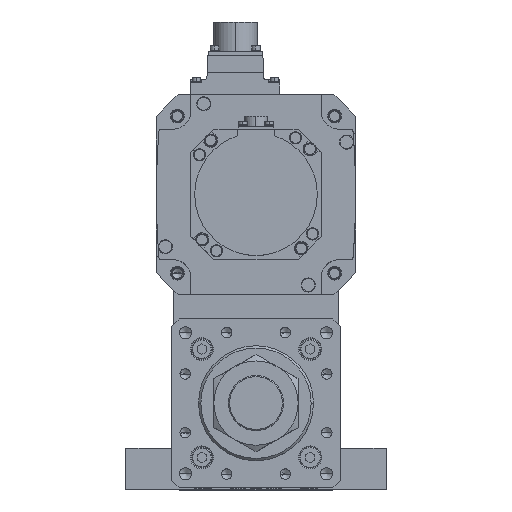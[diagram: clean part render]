
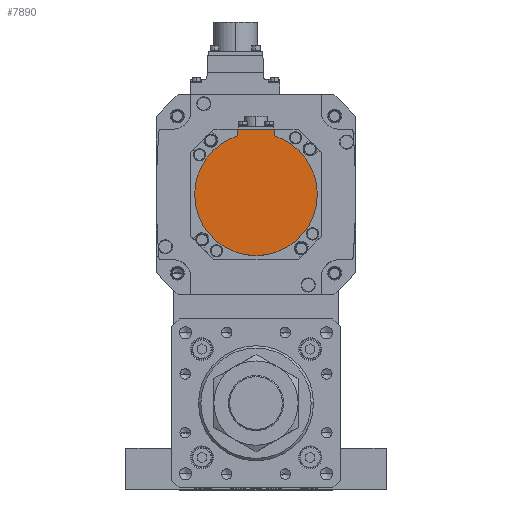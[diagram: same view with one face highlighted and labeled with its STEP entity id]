
A CAD part, top view. The second image highlights one B-rep face of the part: STEP entity #7890.
In plain terms, the highlighted planar face has unit normal (0, 0, 1) as drawn and (0, 0, -1) by its records, which use the part's own axes.
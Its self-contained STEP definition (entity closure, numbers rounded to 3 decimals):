
#437 = CARTESIAN_POINT ( 'NONE',  ( 0., 0., -132.5 ) ) ;
#480 = EDGE_CURVE ( 'NONE', #11700, #31785, #34786, .T. ) ;
#603 = ORIENTED_EDGE ( 'NONE', *, *, #10651, .T. ) ;
#1660 = AXIS2_PLACEMENT_3D ( 'NONE', #3657, #3763, #17277 ) ;
#3657 = CARTESIAN_POINT ( 'NONE',  ( 0., 0., -132.5 ) ) ;
#3763 = DIRECTION ( 'NONE',  ( 0., 0., 1. ) ) ;
#4020 = EDGE_CURVE ( 'NONE', #29515, #20996, #4608, .T. ) ;
#4137 = DIRECTION ( 'NONE',  ( 1., 0., 0. ) ) ;
#4170 = DIRECTION ( 'NONE',  ( 0., 1., 0. ) ) ;
#4608 = CIRCLE ( 'NONE', #6667, 40. ) ;
#5895 = CARTESIAN_POINT ( 'NONE',  ( -12., -42.5, -132.5 ) ) ;
#6609 = CIRCLE ( 'NONE', #18879, 40. ) ;
#6667 = AXIS2_PLACEMENT_3D ( 'NONE', #437, #25075, #8656 ) ;
#7841 = ORIENTED_EDGE ( 'NONE', *, *, #29597, .F. ) ;
#7890 = ADVANCED_FACE ( 'NONE', ( #24269 ), #15286, .F. ) ;
#8656 = DIRECTION ( 'NONE',  ( 1., 0., 0. ) ) ;
#10651 = EDGE_CURVE ( 'NONE', #30215, #20996, #29713, .T. ) ;
#11272 = DIRECTION ( 'NONE',  ( 1., 0., 0. ) ) ;
#11700 = VERTEX_POINT ( 'NONE', #21454 ) ;
#12406 = ORIENTED_EDGE ( 'NONE', *, *, #21915, .T. ) ;
#12801 = CARTESIAN_POINT ( 'NONE',  ( -12., -40.329, -132.5 ) ) ;
#15286 = PLANE ( 'NONE',  #30843 ) ;
#15409 = DIRECTION ( 'NONE',  ( 0., 1., 0. ) ) ;
#15461 = LINE ( 'NONE', #20508, #33871 ) ;
#16090 = EDGE_LOOP ( 'NONE', ( #603, #23887, #7841, #24089, #32646, #12406 ) ) ;
#16453 = CIRCLE ( 'NONE', #1660, 40. ) ;
#17277 = DIRECTION ( 'NONE',  ( 1., 0., 0. ) ) ;
#17975 = DIRECTION ( 'NONE',  ( -1., 0., 0. ) ) ;
#18879 = AXIS2_PLACEMENT_3D ( 'NONE', #25008, #27647, #11272 ) ;
#19641 = EDGE_CURVE ( 'NONE', #31785, #31383, #16453, .T. ) ;
#20508 = CARTESIAN_POINT ( 'NONE',  ( 0., -42.5, -132.5 ) ) ;
#20908 = CARTESIAN_POINT ( 'NONE',  ( -12., -38.158, -132.5 ) ) ;
#20996 = VERTEX_POINT ( 'NONE', #20908 ) ;
#21454 = CARTESIAN_POINT ( 'NONE',  ( 12., -42.5, -132.5 ) ) ;
#21915 = EDGE_CURVE ( 'NONE', #11700, #30215, #15461, .T. ) ;
#22425 = VECTOR ( 'NONE', #15409, 1000. ) ;
#23192 = VECTOR ( 'NONE', #4170, 1000. ) ;
#23656 = CARTESIAN_POINT ( 'NONE',  ( 12., -38.158, -132.5 ) ) ;
#23887 = ORIENTED_EDGE ( 'NONE', *, *, #4020, .F. ) ;
#24089 = ORIENTED_EDGE ( 'NONE', *, *, #19641, .F. ) ;
#24269 = FACE_OUTER_BOUND ( 'NONE', #16090, .T. ) ;
#24294 = CARTESIAN_POINT ( 'NONE',  ( 40., 0., -132.5 ) ) ;
#25008 = CARTESIAN_POINT ( 'NONE',  ( 0., 0., -132.5 ) ) ;
#25075 = DIRECTION ( 'NONE',  ( 0., 0., 1. ) ) ;
#25818 = DIRECTION ( 'NONE',  ( 0., 0., 1. ) ) ;
#26190 = CARTESIAN_POINT ( 'NONE',  ( 0., -1.249, -132.5 ) ) ;
#26824 = CARTESIAN_POINT ( 'NONE',  ( -40., 0., -132.5 ) ) ;
#27647 = DIRECTION ( 'NONE',  ( 0., 0., 1. ) ) ;
#29324 = CARTESIAN_POINT ( 'NONE',  ( 12., -1.249, -132.5 ) ) ;
#29515 = VERTEX_POINT ( 'NONE', #26824 ) ;
#29597 = EDGE_CURVE ( 'NONE', #31383, #29515, #6609, .T. ) ;
#29713 = LINE ( 'NONE', #12801, #22425 ) ;
#30215 = VERTEX_POINT ( 'NONE', #5895 ) ;
#30843 = AXIS2_PLACEMENT_3D ( 'NONE', #26190, #25818, #4137 ) ;
#31383 = VERTEX_POINT ( 'NONE', #24294 ) ;
#31785 = VERTEX_POINT ( 'NONE', #23656 ) ;
#32646 = ORIENTED_EDGE ( 'NONE', *, *, #480, .F. ) ;
#33871 = VECTOR ( 'NONE', #17975, 1000. ) ;
#34786 = LINE ( 'NONE', #29324, #23192 ) ;
